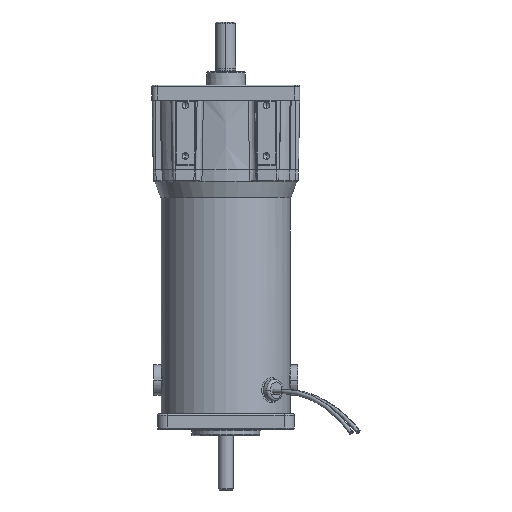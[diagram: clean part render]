
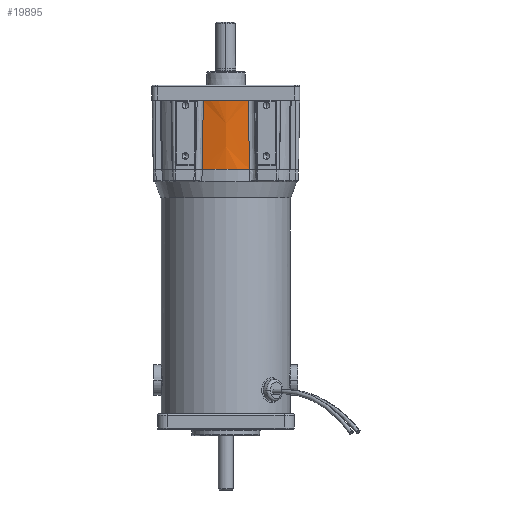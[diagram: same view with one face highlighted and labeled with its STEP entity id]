
A CAD part, front view. The second image highlights one B-rep face of the part: STEP entity #19895.
In plain terms, the highlighted conical face has half-angle 2 degrees and reference radius 46.342 mm.
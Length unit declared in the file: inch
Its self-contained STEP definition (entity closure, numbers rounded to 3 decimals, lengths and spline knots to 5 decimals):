
#19321 = VERTEX_POINT ( 'NONE', #51653 ) ;
#19372 = EDGE_CURVE ( 'NONE', #19373, #19321, #51775, .T. ) ;
#19373 = VERTEX_POINT ( 'NONE', #51770 ) ;
#19489 = EDGE_CURVE ( 'NONE', #19321, #19528, #52146, .T. ) ;
#19528 = VERTEX_POINT ( 'NONE', #52243 ) ;
#19895 = ADVANCED_FACE ( 'NONE', ( #53203 ), #53202, .T. ) ;
#19896 = EDGE_LOOP ( 'NONE', ( #19949, #19953, #19958, #19960, #19961 ) ) ;
#19949 = ORIENTED_EDGE ( 'NONE', *, *, #19950, .T. ) ;
#19950 = EDGE_CURVE ( 'NONE', #19528, #19951, #53336, .T. ) ;
#19951 = VERTEX_POINT ( 'NONE', #53335 ) ;
#19953 = ORIENTED_EDGE ( 'NONE', *, *, #19954, .T. ) ;
#19954 = EDGE_CURVE ( 'NONE', #19951, #19955, #53324, .T. ) ;
#19955 = VERTEX_POINT ( 'NONE', #53319 ) ;
#19958 = ORIENTED_EDGE ( 'NONE', *, *, #19959, .T. ) ;
#19959 = EDGE_CURVE ( 'NONE', #19955, #19373, #53370, .T. ) ;
#19960 = ORIENTED_EDGE ( 'NONE', *, *, #19372, .T. ) ;
#19961 = ORIENTED_EDGE ( 'NONE', *, *, #19489, .T. ) ;
#51653 = CARTESIAN_POINT ( 'NONE',  ( 0., -1.8245, -0.375 ) ) ;
#51770 = CARTESIAN_POINT ( 'NONE',  ( 0.55665, -1.73751, -0.375 ) ) ;
#51771 = DIRECTION ( 'NONE',  ( -1., 0., 0. ) ) ;
#51772 = DIRECTION ( 'NONE',  ( 0., 0., -1. ) ) ;
#51773 = CARTESIAN_POINT ( 'NONE',  ( 0., 0., -0.375 ) ) ;
#51774 = AXIS2_PLACEMENT_3D ( 'NONE', #51773, #51772, #51771 ) ;
#51775 = CIRCLE ( 'NONE', #51774, 1.8245 ) ;
#52097 = CARTESIAN_POINT ( 'NONE',  ( 0., 0., -0.375 ) ) ;
#52143 = DIRECTION ( 'NONE',  ( -1., 0., 0. ) ) ;
#52144 = DIRECTION ( 'NONE',  ( 0., 0., -1. ) ) ;
#52145 = AXIS2_PLACEMENT_3D ( 'NONE', #52097, #52144, #52143 ) ;
#52146 = CIRCLE ( 'NONE', #52145, 1.8245 ) ;
#52243 = CARTESIAN_POINT ( 'NONE',  ( -0.55665, -1.73751, -0.375 ) ) ;
#53196 = DIRECTION ( 'NONE',  ( -1., 0., 0. ) ) ;
#53197 = DIRECTION ( 'NONE',  ( 0., 0., 1. ) ) ;
#53198 = CARTESIAN_POINT ( 'NONE',  ( 0., 0., -0.375 ) ) ;
#53199 = AXIS2_PLACEMENT_3D ( 'NONE', #53198, #53197, #53196 ) ;
#53202 = CONICAL_SURFACE ( 'NONE', #53199, 1.8245, 0.035 ) ;
#53203 = FACE_OUTER_BOUND ( 'NONE', #19896, .T. ) ;
#53319 = CARTESIAN_POINT ( 'NONE',  ( 0.58325, -1.66579, -2.0803 ) ) ;
#53320 = DIRECTION ( 'NONE',  ( 1., 0., 0. ) ) ;
#53321 = DIRECTION ( 'NONE',  ( 0., 0., 1. ) ) ;
#53322 = CARTESIAN_POINT ( 'NONE',  ( 0., 0., -2.0803 ) ) ;
#53323 = AXIS2_PLACEMENT_3D ( 'NONE', #53322, #53321, #53320 ) ;
#53324 = CIRCLE ( 'NONE', #53323, 1.76495 ) ;
#53327 = CARTESIAN_POINT ( 'NONE',  ( -0.58325, -1.66579, -2.0803 ) ) ;
#53328 = CARTESIAN_POINT ( 'NONE',  ( -0.57894, -1.67756, -1.80314 ) ) ;
#53329 = CARTESIAN_POINT ( 'NONE',  ( -0.57463, -1.68926, -1.52598 ) ) ;
#53330 = CARTESIAN_POINT ( 'NONE',  ( -0.57031, -1.70092, -1.24881 ) ) ;
#53331 = CARTESIAN_POINT ( 'NONE',  ( -0.56576, -1.71317, -0.95755 ) ) ;
#53332 = CARTESIAN_POINT ( 'NONE',  ( -0.56121, -1.72537, -0.66627 ) ) ;
#53333 = CARTESIAN_POINT ( 'NONE',  ( -0.55665, -1.73751, -0.375 ) ) ;
#53335 = CARTESIAN_POINT ( 'NONE',  ( -0.58325, -1.66579, -2.0803 ) ) ;
#53336 = B_SPLINE_CURVE_WITH_KNOTS ( 'NONE', 3,
 ( #53333, #53332, #53331, #53330, #53329, #53328, #53327 ),
 .UNSPECIFIED., .F., .F.,
 ( 4, 3, 4 ),
 ( 0., 0.02222, 0.04336 ),
 .UNSPECIFIED. ) ;
#53362 = CARTESIAN_POINT ( 'NONE',  ( 0.55665, -1.73751, -0.375 ) ) ;
#53363 = CARTESIAN_POINT ( 'NONE',  ( 0.56121, -1.72537, -0.66627 ) ) ;
#53364 = CARTESIAN_POINT ( 'NONE',  ( 0.56576, -1.71317, -0.95755 ) ) ;
#53365 = CARTESIAN_POINT ( 'NONE',  ( 0.57031, -1.70092, -1.24881 ) ) ;
#53366 = CARTESIAN_POINT ( 'NONE',  ( 0.57463, -1.68926, -1.52598 ) ) ;
#53367 = CARTESIAN_POINT ( 'NONE',  ( 0.57894, -1.67756, -1.80314 ) ) ;
#53368 = CARTESIAN_POINT ( 'NONE',  ( 0.58325, -1.66579, -2.0803 ) ) ;
#53370 = B_SPLINE_CURVE_WITH_KNOTS ( 'NONE', 3,
 ( #53368, #53367, #53366, #53365, #53364, #53363, #53362 ),
 .UNSPECIFIED., .F., .F.,
 ( 4, 3, 4 ),
 ( 0.00076, 0.0219, 0.04412 ),
 .UNSPECIFIED. ) ;
